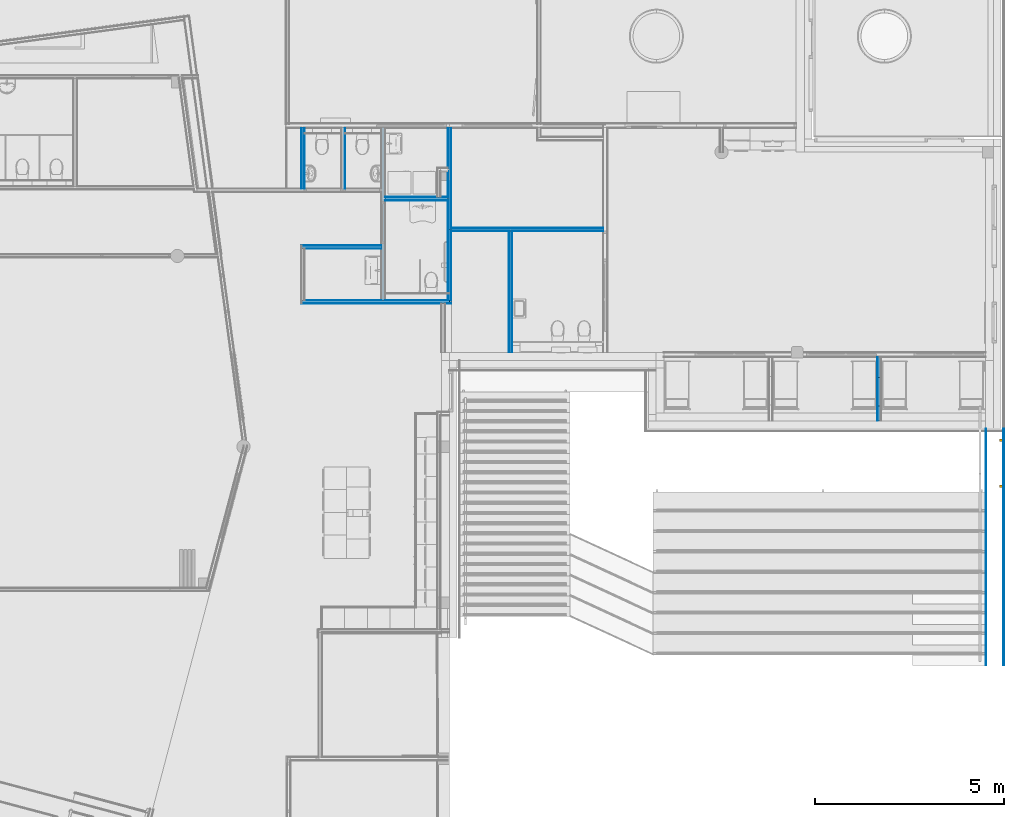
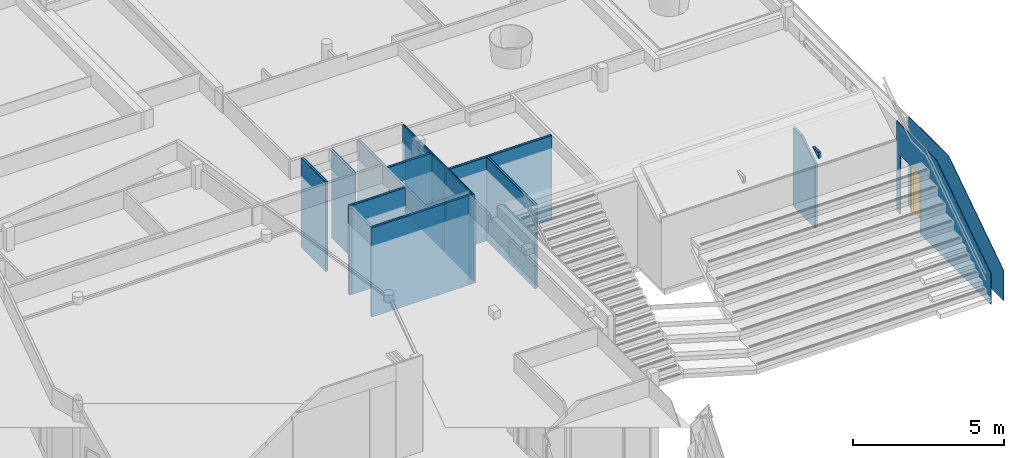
# One storey, part 71 of 167: 26 building element parts, 1 door, 5 openings, 11 elements without a shape of their own, plus 1 element that does not belong to this part.
"""IFC2X3 building model written with IfcOpenShell, lengths in millimetres."""

from ifc_helpers import new_model, entity, si_unit, converted_unit, derived_unit, money_unit, direction, frame, origin_with_axes, place, context, subcontext, project, spatial, faceted_brep, material, type_object, element, fill, aggregate, save


model = new_model("IFC2X3")

# Units and contexts
model_context = context("Model", 3, precision=0.01, world=origin_with_axes(), true_north=direction((0.0, 1.0)))
plan_context = context("Plan", 3, precision=0.01, world=origin_with_axes(), true_north=direction((0.0, 1.0)))
body_context = subcontext(model_context, "Body", "Model", "MODEL_VIEW")
ifc_project = project(units=[si_unit("LENGTHUNIT", "METRE", prefix="MILLI"), si_unit("AREAUNIT", "SQUARE_METRE"), si_unit("VOLUMEUNIT", "CUBIC_METRE"), converted_unit("PLANEANGLEUNIT", "DEGREE", entity("IfcPlaneAngleMeasure", 0.0174532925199), si_unit("PLANEANGLEUNIT", "RADIAN"), dimensions=[0, 0, 0, 0, 0, 0, 0]), si_unit("SOLIDANGLEUNIT", "STERADIAN"), money_unit("EUR"), converted_unit("TIMEUNIT", "Year", entity("IfcTimeMeasure", 31556926.0), si_unit("TIMEUNIT", "SECOND"), dimensions=[0, 0, 1, 0, 0, 0, 0]), si_unit("MASSUNIT", "GRAM", prefix="KILO"), si_unit("THERMODYNAMICTEMPERATUREUNIT", "DEGREE_CELSIUS"), si_unit("LUMINOUSINTENSITYUNIT", "LUMEN"), si_unit("ENERGYUNIT", "JOULE", prefix="MEGA"), derived_unit("THERMALCONDUCTANCEUNIT", [(si_unit("POWERUNIT", "WATT"), 1), (si_unit("LENGTHUNIT", "METRE"), -1), (si_unit("THERMODYNAMICTEMPERATUREUNIT", "KELVIN"), -1)]), derived_unit("SPECIFICHEATCAPACITYUNIT", [(si_unit("ENERGYUNIT", "JOULE"), 1), (si_unit("MASSUNIT", "GRAM", prefix="KILO"), -1), (si_unit("THERMODYNAMICTEMPERATUREUNIT", "KELVIN"), -1)]), derived_unit("MASSDENSITYUNIT", [(si_unit("MASSUNIT", "GRAM", prefix="KILO"), 1), (si_unit("VOLUMEUNIT", "CUBIC_METRE"), -1)])], contexts=[model_context, plan_context])

# Site, building, storey
site_placement = place(None, origin_with_axes())
site = spatial("IfcSite", under=ifc_project, at=site_placement, Name="Site", CompositionType="ELEMENT")
building_placement = place(site_placement, origin_with_axes())
building = spatial("IfcBuilding", under=site, at=building_placement, Name="Naam gebouw", CompositionType="ELEMENT")
storey_placement = place(building_placement, origin_with_axes())
storey = spatial("IfcBuildingStorey", under=building, at=storey_placement, Name="Begane grond", CompositionType="ELEMENT", Elevation=0.0)

# Door
door_style = type_object("IfcDoorStyle", Name="D1 24", ConstructionType="NOTDEFINED", OperationType="SINGLE_SWING_LEFT", ParameterTakesPrecedence=False, Sizeable=False)
wall_6_placement = place(storey_placement, frame((43200.0, 23020.9987916, -100.0), z_axis=(0.0, 0.0, 1.0), x_axis=(0.0, 1.0, 0.0)))
opening_2_placement = place(wall_6_placement, frame((5349.0012216, 0.0, 0.0), z_axis=(0.0, 0.0, 1.0), x_axis=(1.0, 0.0, 0.0)))
door_placement = place(opening_2_placement, frame((642.0, 0.0, 0.0), z_axis=(0.0, 0.0, 1.0), x_axis=(-1.0, 0.0, 0.0)))
door = element("IfcDoor", 1, at=door_placement, inside=storey, type_object=door_style, Name="32_Deur_He-05a", ObjectType="DOOR", OverallHeight=2367.0, OverallWidth=1284.0, context=body_context, shape_type="Brep", body=[
    faceted_brep([(1217.0, 234.0, 0.0), (1217.0, 160.0, 0.0), (1217.0, 160.0, 2300.0), (1217.0, 234.0, 2300.0), (1234.0, 234.0, 0.0), (1234.0, 274.0, 0.0), (1284.0, 274.0, 0.0), (1284.0, 160.0, 0.0), (1284.0, 160.0, 2300.0), (1234.0, 234.0, 2300.0), (1284.0, 274.0, 2300.0), (1234.0, 274.0, 2300.0)], [[[0, 1, 2, 3]], [[4, 5, 6, 7, 1, 0]], [[1, 7, 8, 2]], [[9, 3, 2, 8, 10, 11]], [[9, 4, 0, 3]], [[11, 5, 4, 9]], [[11, 10, 6, 5]], [[6, 10, 8, 7]]]),
    faceted_brep([(50.0, 234.0, 2300.0), (50.0, 274.0, 2300.0), (0.0, 274.0, 2300.0), (0.0, 160.0, 2300.0), (67.0, 160.0, 2300.0), (67.0, 234.0, 2300.0), (50.0, 234.0, 0.0), (50.0, 274.0, 0.0), (0.0, 274.0, 0.0), (0.0, 160.0, 0.0), (67.0, 160.0, 0.0), (67.0, 234.0, 0.0)], [[[0, 1, 2, 3, 4, 5]], [[0, 6, 7, 1]], [[7, 8, 2, 1]], [[2, 8, 9, 3]], [[3, 9, 10, 4]], [[5, 4, 10, 11]], [[5, 11, 6, 0]], [[6, 11, 10, 9, 8, 7]]]),
    faceted_brep([(1234.0, 274.0, 2317.0), (50.0, 274.0, 2317.0), (50.0, 274.0, 2300.0), (0.0, 274.0, 2300.0), (0.0, 274.0, 2367.0), (1284.0, 274.0, 2367.0), (1284.0, 274.0, 2300.0), (1234.0, 274.0, 2300.0), (1234.0, 234.0, 2317.0), (50.0, 234.0, 2317.0), (50.0, 234.0, 2300.0), (67.0, 234.0, 2300.0), (67.0, 160.0, 2300.0), (0.0, 160.0, 2300.0), (0.0, 160.0, 2367.0), (1284.0, 160.0, 2367.0), (1284.0, 160.0, 2300.0), (1234.0, 234.0, 2300.0), (1217.0, 160.0, 2300.0), (1217.0, 234.0, 2300.0)], [[[0, 1, 2, 3, 4, 5, 6, 7]], [[0, 8, 9, 1]], [[1, 9, 10, 2]], [[10, 11, 12, 13, 3, 2]], [[4, 3, 13, 14]], [[5, 4, 14, 15]], [[6, 5, 15, 16]], [[17, 7, 6, 16, 18, 19]], [[7, 17, 8, 0]], [[10, 9, 8, 17, 19, 11]], [[19, 18, 12, 11]], [[12, 18, 16, 15, 14, 13]]]),
    faceted_brep([(50.0, 274.0, 0.0), (1234.0, 274.0, 0.0), (1234.0, 234.0, 0.0), (50.0, 234.0, 0.0), (50.0, 274.0, 2317.0), (1234.0, 274.0, 2317.0), (1234.0, 234.0, 2317.0), (50.0, 234.0, 2317.0)], [[[0, 1, 2, 3]], [[0, 4, 5, 1]], [[1, 5, 6, 2]], [[3, 2, 6, 7]], [[4, 0, 3, 7]], [[5, 4, 7, 6]]]),
])

# Wall, building element parts
wall_type_1 = type_object("IfcWallType", Name="_TenW_22_Metalstud 100 enkel gipsvezelplaat 100", PredefinedType="NOTDEFINED")
wall_1_placement = place(storey_placement, frame((28800.0, 37300.0, -100.0), z_axis=(0.0, 0.0, 1.0), x_axis=(0.0, -1.0, 0.0)))
wall_1 = element("IfcWall", 2, at=wall_1_placement, inside=storey, type_object=wall_type_1, Name="22_Wand_Wand-x")
ifc_material_1 = material(Name="Gipsplaat watervast")
building_element_part_1_placement = place(wall_1_placement, origin_with_axes())
building_element_part_1 = element("IfcBuildingElementPart", 3, at=building_element_part_1_placement, material=ifc_material_1, Name="Gipsplaat watervast", context=body_context, shape_type="Brep", body=[
    faceted_brep([(2787.50046543, 37.5, 3405.0), (2787.50046543, 50.0, 3405.0), (2787.50046543, 50.0, 30.0), (2787.50046543, 37.5, 30.0), (4613.64713374, 50.0, 3405.0), (4613.64713374, 37.5, 3405.0), (4613.64713374, 50.0, 30.0), (4613.64713374, 37.5, 30.0)], [[[0, 1, 2, 3]], [[4, 1, 0, 5]], [[1, 4, 6, 2]], [[3, 2, 6, 7]], [[5, 0, 3, 7]], [[4, 5, 7, 6]]]),
    faceted_brep([(62.5, 37.5, 3405.0), (62.5, 50.0, 3405.0), (62.5, 50.0, 30.0), (62.5, 37.5, 30.0), (2712.50046543, 50.0, 3405.0), (2712.50046543, 37.5, 3405.0), (2712.50046543, 50.0, 30.0), (2712.50046543, 37.5, 30.0)], [[[0, 1, 2, 3]], [[4, 1, 0, 5]], [[1, 4, 6, 2]], [[3, 2, 6, 7]], [[5, 0, 3, 7]], [[4, 5, 7, 6]]]),
])
ifc_material_2 = material(Name="Isolatie - Steenwol zacht")
building_element_part_2_placement = place(wall_1_placement, origin_with_axes())
building_element_part_2 = element("IfcBuildingElementPart", 4, at=building_element_part_2_placement, material=ifc_material_2, Name="Isolatie - Steenwol zacht", context=body_context, shape_type="Brep", body=[
    faceted_brep([(50.0, 0.0, 3405.0), (50.0, 37.5, 3405.0), (50.0, 37.5, 30.0), (50.0, -37.5, 30.0), (50.0, -37.5, 3630.0), (50.0, 0.0, 3630.0), (4626.14713374, 37.5, 3405.0), (4626.14713374, 0.0, 3405.0), (4626.14713374, 37.5, 30.0), (4626.14713374, -37.5, 30.0), (4626.14713374, -37.5, 3630.0), (4626.14713374, 0.0, 3630.0)], [[[0, 1, 2, 3, 4, 5]], [[6, 1, 0, 7]], [[1, 6, 8, 2]], [[3, 2, 8, 9]], [[3, 9, 10, 4]], [[11, 5, 4, 10]], [[7, 0, 5, 11]], [[7, 11, 10, 9, 8, 6]]]),
])
building_element_part_3_placement = place(wall_1_placement, origin_with_axes())
building_element_part_3 = element("IfcBuildingElementPart", 5, at=building_element_part_3_placement, material=ifc_material_1, Name="Gipsplaat watervast", context=body_context, shape_type="Brep", body=[
    faceted_brep([(1130.0, -37.5, 30.0), (62.5, -37.5, 30.0), (62.5, -37.5, 3630.0), (1130.0, -37.5, 3630.0), (62.5, -50.0, 30.0), (1130.0, -50.0, 30.0), (62.5, -50.0, 3630.0), (1130.0, -50.0, 3630.0)], [[[0, 1, 2, 3]], [[4, 1, 0, 5]], [[1, 4, 6, 2]], [[7, 3, 2, 6]], [[5, 0, 3, 7]], [[4, 5, 7, 6]]]),
    faceted_brep([(4613.64713374, -37.5, 30.0), (1970.09999984, -37.5, 30.0), (1970.09999984, -37.5, 3630.0), (4613.64713374, -37.5, 3630.0), (1970.09999984, -50.0, 30.0), (4613.64713374, -50.0, 30.0), (1970.09999984, -50.0, 3630.0), (4613.64713374, -50.0, 3630.0)], [[[0, 1, 2, 3]], [[4, 1, 0, 5]], [[1, 4, 6, 2]], [[7, 3, 2, 6]], [[5, 0, 3, 7]], [[4, 5, 7, 6]]]),
    faceted_brep([(1895.09999984, -37.5, 30.0), (1205.0, -37.5, 30.0), (1205.0, -37.5, 3630.0), (1895.09999984, -37.5, 3630.0), (1205.0, -50.0, 30.0), (1895.09999984, -50.0, 30.0), (1205.0, -50.0, 3630.0), (1895.09999984, -50.0, 3630.0)], [[[0, 1, 2, 3]], [[4, 1, 0, 5]], [[1, 4, 6, 2]], [[7, 3, 2, 6]], [[5, 0, 3, 7]], [[4, 5, 7, 6]]]),
])
aggregate(wall_1, [building_element_part_1, building_element_part_2, building_element_part_3])

# Wall, building element part
wall_2_placement = place(storey_placement, frame((25987.5000132, 37300.0, -100.0), z_axis=(0.0, 0.0, 1.0), x_axis=(0.0, -1.0, 0.0)))
wall_2 = element("IfcWall", 6, at=wall_2_placement, inside=storey, type_object=wall_type_1, Name="22_Wand_Wand-x")
building_element_part_4_placement = place(wall_2_placement, origin_with_axes())
building_element_part_4 = element("IfcBuildingElementPart", 7, at=building_element_part_4_placement, material=ifc_material_1, Name="Gipsplaat watervast", context=body_context, shape_type="Brep", body=[
    faceted_brep([(1663.64683605, 50.0, 3630.0), (1663.64683605, 50.0, 30.0), (62.5, 50.0, 30.0), (62.5, 50.0, 3630.0), (1663.6468363, 37.5, 3630.0), (1663.6468363, 37.5, 30.0), (62.5, 37.5, 30.0), (62.5, 37.5, 3630.0)], [[[0, 1, 2, 3]], [[4, 5, 1, 0]], [[5, 6, 2, 1]], [[3, 2, 6, 7]], [[7, 4, 0, 3]], [[7, 6, 5, 4]]]),
])
aggregate(wall_2, [building_element_part_4])

# Wall, building element parts
wall_3_placement = place(storey_placement, frame((32925.2814665, 34549.9995346, -100.0), z_axis=(0.0, 0.0, 1.0), x_axis=(-1.0, 0.0, 0.0)))
wall_3 = element("IfcWall", 8, at=wall_3_placement, inside=storey, type_object=wall_type_1, Name="22_Wand_Wand-x")
building_element_part_5_placement = place(wall_3_placement, origin_with_axes())
building_element_part_5 = element("IfcBuildingElementPart", 9, at=building_element_part_5_placement, material=ifc_material_1, Name="Gipsplaat watervast", context=body_context, shape_type="Brep", body=[
    faceted_brep([(2474.78146709, 37.4999999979, 30.0), (2474.78146704, 37.4999997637, 3405.0), (62.5, 37.4999997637, 3405.0), (62.5, 37.4999999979, 30.0), (2474.78146709, 50.0, 30.0), (2474.78146703, 50.0000000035, 3405.0), (62.5, 50.0000000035, 3405.0), (62.5, 50.0, 30.0)], [[[0, 1, 2, 3]], [[4, 5, 1, 0]], [[5, 6, 2, 1]], [[3, 2, 6, 7]], [[4, 0, 3, 7]], [[7, 6, 5, 4]]]),
    faceted_brep([(4075.28146645, 37.4999997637, 3405.0), (2549.78146702, 37.4999997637, 3405.0), (2549.78146709, 37.4999999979, 30.0), (4075.28146645, 37.4999999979, 30.0), (2549.78146701, 50.0000000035, 3405.0), (4075.28146645, 50.0000000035, 3405.0), (2549.78146709, 50.0, 30.0), (4075.28146645, 50.0, 30.0)], [[[0, 1, 2, 3]], [[4, 1, 0, 5]], [[1, 4, 6, 2]], [[3, 2, 6, 7]], [[5, 0, 3, 7]], [[4, 5, 7, 6]]]),
])
building_element_part_6_placement = place(wall_3_placement, origin_with_axes())
building_element_part_6 = element("IfcBuildingElementPart", 10, at=building_element_part_6_placement, material=ifc_material_2, Name="Isolatie - Steenwol zacht", context=body_context, shape_type="Brep", body=[
    faceted_brep([(4087.78146645, -37.4999997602, 3405.0), (50.0000004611, -37.4999997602, 3405.0), (50.0000000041, -37.4999999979, 30.0), (4087.78146645, -37.4999999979, 30.0), (50.0000004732, 37.4999997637, 3405.0), (4087.78146645, 37.4999997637, 3405.0), (50.0000000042, 37.4999999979, 30.0), (4087.78146645, 37.4999999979, 30.0)], [[[0, 1, 2, 3]], [[4, 1, 0, 5]], [[1, 4, 6, 2]], [[3, 2, 6, 7]], [[5, 0, 3, 7]], [[4, 5, 7, 6]]]),
])
building_element_part_7_placement = place(wall_3_placement, origin_with_axes())
building_element_part_7 = element("IfcBuildingElementPart", 11, at=building_element_part_7_placement, material=ifc_material_1, Name="Gipsplaat watervast", context=body_context, shape_type="Brep", body=[
    faceted_brep([(4075.28146645, -50.0, 3405.0), (62.5, -50.0, 3405.0), (62.5, -50.0, 30.0), (4075.28146645, -50.0, 30.0), (62.5, -37.4999997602, 3405.0), (4075.28146645, -37.4999997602, 3405.0), (62.5, -37.4999999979, 30.0), (4075.28146645, -37.4999999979, 30.0)], [[[0, 1, 2, 3]], [[4, 1, 0, 5]], [[1, 4, 6, 2]], [[3, 2, 6, 7]], [[5, 0, 3, 7]], [[4, 5, 7, 6]]]),
])
aggregate(wall_3, [building_element_part_5, building_element_part_6, building_element_part_7])

wall_4_placement = place(storey_placement, frame((40174.9998586, 31237.4997738, -100.0), z_axis=(0.0, 0.0, 1.0), x_axis=(0.0, -1.0, 0.0)))
wall_4 = element("IfcWall", 12, at=wall_4_placement, inside=storey, type_object=wall_type_1, Name="22_Wand_Wand-x")
building_element_part_8_placement = place(wall_4_placement, origin_with_axes())
building_element_part_8 = element("IfcBuildingElementPart", 13, at=building_element_part_8_placement, material=ifc_material_2, Name="Isolatie - Steenwol zacht", context=body_context, shape_type="Brep", body=[
    faceted_brep([(1537.49976061, 37.5000000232, 30.0), (50.0, 37.5000000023, 30.0), (50.0, 37.5000002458, 3211.00000112), (602.268809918, 37.5000008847, 3211.00000112), (1537.49976061, 37.5000020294, 2626.61197501), (50.0, -37.4999999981, 30.0), (1537.49976061, -37.4999999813, 30.0), (50.0, -37.4999998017, 3211.00000112), (602.688094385, -37.4999992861, 3211.00000112), (1537.49976061, -37.4999983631, 2626.87396893)], [[[0, 1, 2, 3, 4]], [[5, 1, 0, 6]], [[1, 5, 7, 2]], [[7, 8, 3, 2]], [[9, 4, 3, 8]], [[6, 0, 4, 9]], [[5, 6, 9, 8, 7]]]),
    faceted_brep([(1751.49976061, 37.5000022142, 2964.56338462), (1357.11257121, 37.5000017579, 3211.00000112), (1751.49976061, 37.5000022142, 3211.00000112), (1357.53185568, -37.4999985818, 3211.00000112), (1751.49976061, -37.4999982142, 2964.82537854), (1751.49976061, -37.4999982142, 3211.00000112)], [[[0, 1, 2]], [[3, 1, 0, 4]], [[1, 3, 5, 2]], [[4, 0, 2, 5]], [[3, 4, 5]]]),
    faceted_brep([(1537.49976061, 37.5000022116, 2862.44765568), (1532.05271718, 37.5000022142, 2865.85129299), (1537.49976061, 37.5000022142, 2865.85129299), (1532.47200165, -37.4999982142, 2865.85129299), (1537.49976061, -37.4999982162, 2862.7096496), (1537.49976061, -37.4999982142, 2865.85129299)], [[[0, 1, 2]], [[3, 1, 0, 4]], [[1, 3, 5, 2]], [[4, 0, 2, 5]], [[3, 4, 5]]]),
])
building_element_part_9_placement = place(wall_4_placement, origin_with_axes())
building_element_part_9 = element("IfcBuildingElementPart", 14, at=building_element_part_9_placement, material=ifc_material_1, Name="Gipsplaat watervast", context=body_context, shape_type="Brep", body=[
    faceted_brep([(1537.49976061, -37.4999999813, 30.0), (62.5, -37.499999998, 30.0), (62.5, -37.4999997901, 3211.00000112), (602.688094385, -37.4999992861, 3211.00000112), (1537.49976061, -37.4999983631, 2626.87396893), (62.5, -50.0, 30.0), (1537.49976061, -50.0, 30.0), (62.5, -50.0, 3211.00000112), (602.757975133, -50.0, 3211.00000112), (1537.49976061, -50.0, 2626.91763458)], [[[0, 1, 2, 3, 4]], [[5, 1, 0, 6]], [[1, 5, 7, 2]], [[7, 8, 3, 2]], [[9, 4, 3, 8]], [[6, 0, 4, 9]], [[5, 6, 9, 8, 7]]]),
    faceted_brep([(1751.49976061, -37.4999982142, 2964.82537854), (1357.53185568, -37.4999985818, 3211.00000112), (1751.49976061, -37.4999982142, 3211.00000112), (1357.60173643, -50.0, 3211.00000112), (1751.49976061, -50.0, 2964.8690442), (1751.49976061, -50.0, 3211.00000112)], [[[0, 1, 2]], [[3, 1, 0, 4]], [[1, 3, 5, 2]], [[4, 0, 2, 5]], [[3, 4, 5]]]),
    faceted_brep([(1537.49976061, -37.4999982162, 2862.7096496), (1532.47200165, -37.4999982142, 2865.85129299), (1537.49976061, -37.4999982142, 2865.85129299), (1532.5418824, -50.0, 2865.85129299), (1537.49976061, -50.0, 2862.75331526), (1537.49976061, -50.0, 2865.85129299)], [[[0, 1, 2]], [[3, 1, 0, 4]], [[1, 3, 5, 2]], [[4, 0, 2, 5]], [[3, 4, 5]]]),
])
aggregate(wall_4, [building_element_part_8, building_element_part_9])

wall_5_placement = place(storey_placement, frame((28850.0000001, 32636.3528663, -100.0), z_axis=(0.0, 0.0, 1.0), x_axis=(-1.0, 0.0, 0.0)))
wall_5 = element("IfcWall", 15, at=wall_5_placement, inside=storey, type_object=wall_type_1, Name="22_Wand_Wand-x")
building_element_part_10_placement = place(wall_5_placement, origin_with_axes())
building_element_part_10 = element("IfcBuildingElementPart", 16, at=building_element_part_10_placement, material=ifc_material_1, Name="Gipsplaat watervast", context=body_context, shape_type="Brep", body=[
    faceted_brep([(50.0000000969, 37.5, 3405.0), (0.0, 37.5, 3405.0), (0.0, 37.5, 30.0), (176.500000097, 37.5, 30.0), (176.500000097, 37.5, 3630.0), (50.0000000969, 37.5, 3630.0), (0.0, 50.0, 3405.0), (50.0000000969, 50.0, 3405.0), (0.0, 50.0, 30.0), (176.500000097, 50.0, 30.0), (176.500000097, 50.0, 3630.0), (50.0000000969, 50.0, 3630.0)], [[[0, 1, 2, 3, 4, 5]], [[6, 1, 0, 7]], [[1, 6, 8, 2]], [[3, 2, 8, 9]], [[3, 9, 10, 4]], [[11, 5, 4, 10]], [[7, 0, 5, 11]], [[7, 11, 10, 9, 8, 6]]]),
    faceted_brep([(251.500000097, 50.0, 30.0), (251.500000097, 37.5, 30.0), (251.500000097, 37.5, 3630.0), (251.500000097, 50.0, 3630.0), (3974.99996005, 37.5, 30.0), (3974.99996005, 50.0, 30.0), (3974.99996005, 37.5, 3630.0), (3974.99996005, 50.0, 3630.0)], [[[0, 1, 2, 3]], [[4, 1, 0, 5]], [[1, 4, 6, 2]], [[6, 7, 3, 2]], [[5, 0, 3, 7]], [[4, 5, 7, 6]]]),
])
building_element_part_11_placement = place(wall_5_placement, origin_with_axes())
building_element_part_11 = element("IfcBuildingElementPart", 17, at=building_element_part_11_placement, material=ifc_material_2, Name="Isolatie - Steenwol zacht", context=body_context, shape_type="Brep", body=[
    faceted_brep([(50.0000000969, -37.5, 3405.0), (0.0, -37.5, 3405.0), (0.0, -37.5, 30.0), (3962.49996005, -37.5, 30.0), (3962.49996005, -37.5, 3630.0), (50.0000000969, -37.5, 3630.0), (0.0, 37.5, 3405.0), (50.0000000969, 37.5, 3405.0), (0.0, 37.5, 30.0), (3962.49996005, 37.5, 30.0), (3962.49996005, 37.5, 3630.0), (50.0000000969, 37.5, 3630.0)], [[[0, 1, 2, 3, 4, 5]], [[6, 1, 0, 7]], [[1, 6, 8, 2]], [[3, 2, 8, 9]], [[3, 9, 10, 4]], [[11, 5, 4, 10]], [[7, 0, 5, 11]], [[7, 11, 10, 9, 8, 6]]]),
])
building_element_part_12_placement = place(wall_5_placement, origin_with_axes())
building_element_part_12 = element("IfcBuildingElementPart", 18, at=building_element_part_12_placement, material=ifc_material_1, Name="Gipsplaat watervast", context=body_context, shape_type="Brep", body=[
    faceted_brep([(12.5000000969, -50.0, 3405.0), (0.0, -50.0, 3405.0), (0.0, -50.0, 30.0), (12.5000000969, -50.0, 30.0), (0.0, -37.5, 3405.0), (12.5000000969, -37.5, 3405.0), (0.0, -37.5, 30.0), (12.5000000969, -37.5, 30.0)], [[[0, 1, 2, 3]], [[4, 1, 0, 5]], [[1, 4, 6, 2]], [[3, 2, 6, 7]], [[5, 0, 3, 7]], [[4, 5, 7, 6]]]),
    faceted_brep([(87.5000000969, -37.5, 30.0), (87.5000000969, -50.0, 30.0), (87.5000000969, -50.0, 3630.0), (87.5000000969, -37.5, 3630.0), (1762.49998687, -50.0, 30.0), (1762.49998687, -37.5, 30.0), (1762.49998687, -50.0, 3630.0), (1762.49998687, -37.5, 3630.0)], [[[0, 1, 2, 3]], [[4, 1, 0, 5]], [[1, 4, 6, 2]], [[6, 7, 3, 2]], [[5, 0, 3, 7]], [[4, 5, 7, 6]]]),
    faceted_brep([(1837.49998687, -37.5, 30.0), (1837.49998687, -50.0, 30.0), (1837.49998687, -50.0, 3630.0), (1837.49998687, -37.5, 3630.0), (3887.49996005, -50.0, 30.0), (3887.49996005, -37.5, 30.0), (3887.49996005, -50.0, 3630.0), (3887.49996005, -37.5, 3630.0)], [[[0, 1, 2, 3]], [[4, 1, 0, 5]], [[1, 4, 6, 2]], [[6, 7, 3, 2]], [[5, 0, 3, 7]], [[4, 5, 7, 6]]]),
])
aggregate(wall_5, [building_element_part_10, building_element_part_11, building_element_part_12])

# Wall, openings
wall_type_2 = type_object("IfcWallType", Name="_TenW_21_buitenmuur ht-uittimmer-214- ht 488", PredefinedType="NOTDEFINED")
wall_6 = element("IfcWall", 19, at=wall_6_placement, inside=storey, type_object=wall_type_2, Name="21_Wand_Wand-x")
opening_1_placement = place(wall_6_placement, frame((2512.78326577, 0.0, 707.979959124), z_axis=(0.0, 0.0, 1.0), x_axis=(1.0, 0.0, 0.0)))
element("IfcOpeningElement", 20, at=opening_1_placement, cuts=wall_6, Name="31_Raam_-", context=body_context, shape_type="Brep", body=[
    faceted_brep([(3266.20828403, 488.0, 4354.47538697), (-3266.20828403, 488.0, 4354.47538697), (-3266.20828403, -488.0, 4354.47538697), (3266.20828403, -488.0, 4354.47538697), (-3266.20828403, 488.0, 0.0), (-3266.20828403, -488.0, 0.0)], [[[0, 1, 2, 3]], [[0, 4, 1]], [[1, 4, 5, 2]], [[3, 2, 5]], [[4, 0, 3, 5]]]),
])
opening_2 = element("IfcOpeningElement", 21, at=opening_2_placement, cuts=wall_6, Name="32_Deur_He-05a", context=body_context, shape_type="Brep", body=[
    faceted_brep([(642.0, -976.0, 2367.0), (642.0, -976.0, 0.0), (642.0, 488.0, 0.0), (642.0, 488.0, 2367.0), (-642.0, -976.0, 2367.0), (-642.0, -976.0, 0.0), (-642.0, 488.0, 0.0), (-642.0, 488.0, 2367.0)], [[[0, 1, 2, 3]], [[0, 4, 5, 1]], [[1, 5, 6, 2]], [[3, 2, 6, 7]], [[4, 0, 3, 7]], [[5, 4, 7, 6]]]),
])

fill(opening_2, door)

# Opening
opening_3_placement = place(wall_6_placement, frame((-23020.9987916, 43200.0, 100.0), z_axis=(0.0, 0.0, 1.0), x_axis=(0.0, -1.0, 0.0)))
element("IfcOpeningElement", 22, at=opening_3_placement, cuts=wall_6, Name="_Lege opening_Doorvoer-x", context=body_context, shape_type="Brep", body=[
    faceted_brep([(43400.0, 33541.1389397, 2799.99995741), (43400.0, 33541.1389397, 3279.99995741), (42498.0, 33541.1389397, 3279.99995741), (42498.0, 33541.1389397, 2799.99995741), (43400.0, 35701.1089397, 2799.99995741), (43400.0, 35701.1089397, 3279.99995741), (42498.0, 35701.1089397, 3279.99995741), (42498.0, 35701.1089397, 2799.99995741)], [[[0, 1, 2, 3]], [[0, 4, 5, 1]], [[1, 5, 6, 2]], [[3, 2, 6, 7]], [[4, 0, 3, 7]], [[5, 4, 7, 6]]]),
])

opening_4_placement = place(wall_6_placement, frame((-23020.9987916, 43200.0, 100.0), z_axis=(0.0, 0.0, 1.0), x_axis=(0.0, -1.0, 0.0)))
element("IfcOpeningElement", 23, at=opening_4_placement, cuts=wall_6, Name="_Lege opening_Doorvoer-x", context=body_context, shape_type="Brep", body=[
    faceted_brep([(43400.0, 31552.2989397, 2799.99995741), (43400.0, 31552.2989397, 3279.99995741), (42498.0, 31552.2989397, 3279.99995741), (42498.0, 31552.2989397, 2799.99995741), (43400.0, 32634.8189397, 2799.99995741), (43400.0, 32634.8189397, 3279.99995741), (42498.0, 32634.8189397, 3279.99995741), (42498.0, 32634.8189397, 2799.99995741)], [[[0, 1, 2, 3]], [[0, 4, 5, 1]], [[1, 5, 6, 2]], [[3, 2, 6, 7]], [[4, 0, 3, 7]], [[5, 4, 7, 6]]]),
])

# Building element part
ifc_material_3 = material(Name="_TenW_21_Hout betimmering")
building_element_part_13_placement = place(wall_6_placement, origin_with_axes())
building_element_part_13 = element("IfcBuildingElementPart", 24, at=building_element_part_13_placement, material=ifc_material_3, Name="_TenW_21_Hout betimmering", context=body_context, shape_type="Brep", body=[
    faceted_brep([(4707.0012216, 196.0, 0.0), (4707.0012216, 196.0, 2367.0), (5991.0012216, 196.0, 2367.0), (5991.0012216, 196.0, 0.0), (6265.0012216, 196.0, 0.0), (6265.0012216, 196.0, 3630.0), (3630.07711023, 196.0, 3630.0), (0.0, 196.0, 1210.20921283), (0.0, 196.0, 0.0), (4707.0012216, 214.0, 0.0), (4707.0012216, 214.0, 2367.0), (5991.0012216, 214.0, 2367.0), (5991.0012216, 214.0, 0.0), (6265.0012216, 214.0, 0.0), (6265.0012216, 214.0, 3630.0), (3630.07711023, 214.0, 3630.0), (0.0, 214.0, 1210.20921283), (0.0, 214.0, 0.0)], [[[0, 1, 2, 3, 4, 5, 6, 7, 8]], [[1, 0, 9, 10]], [[2, 1, 10, 11]], [[3, 2, 11, 12]], [[3, 12, 13, 4]], [[14, 5, 4, 13]], [[6, 5, 14, 15]], [[6, 15, 16, 7]], [[16, 17, 8, 7]], [[9, 0, 8, 17]], [[10, 9, 17, 16, 15, 14, 13, 12, 11]]]),
])

building_element_part_14_placement = place(wall_6_placement, origin_with_axes())
building_element_part_14 = element("IfcBuildingElementPart", 25, at=building_element_part_14_placement, material=ifc_material_3, Name="_TenW_21_Hout betimmering", context=body_context, shape_type="Brep", body=[
    faceted_brep([(4707.0012216, -274.0, 0.0), (4707.0012216, -274.0, 2367.0), (5991.0012216, -274.0, 2367.0), (5991.0012216, -274.0, 0.0), (6265.0012216, -274.0, 0.0), (6265.0012216, -274.0, 3630.0), (3630.07711023, -274.0, 3630.0), (0.0, -274.0, 1210.20921283), (0.0, -274.0, 0.0), (4707.0012216, -256.0, 0.0), (4707.0012216, -256.0, 2367.0), (5991.0012216, -256.0, 2367.0), (5991.0012216, -256.0, 0.0), (6265.0012216, -256.0, 0.0), (6265.0012216, -256.0, 3630.0), (3630.07711023, -256.0, 3630.0), (0.0, -256.0, 1210.20921283), (0.0, -256.0, 0.0)], [[[0, 1, 2, 3, 4, 5, 6, 7, 8]], [[1, 0, 9, 10]], [[2, 1, 10, 11]], [[3, 2, 11, 12]], [[3, 12, 13, 4]], [[5, 4, 13, 14]], [[6, 5, 14, 15]], [[6, 15, 16, 7]], [[16, 17, 8, 7]], [[9, 0, 8, 17]], [[10, 9, 17, 16, 15, 14, 13, 12, 11]]]),
])

aggregate(wall_6, [building_element_part_13, building_element_part_14])

# Wall, building element parts
wall_7_placement = place(storey_placement, frame((27050.0000132, 34086.3528617, -100.0), z_axis=(0.0, 0.0, 1.0), x_axis=(-1.0, 0.0, 0.0)))
wall_7 = element("IfcWall", 26, at=wall_7_placement, inside=storey, type_object=wall_type_1, Name="22_Wand_Wand-x")
building_element_part_15_placement = place(wall_7_placement, origin_with_axes())
building_element_part_15 = element("IfcBuildingElementPart", 27, at=building_element_part_15_placement, material=ifc_material_1, Name="Gipsplaat watervast", context=body_context, shape_type="Brep", body=[
    faceted_brep([(50.0, 50.0, 30.0), (50.0, 37.5, 30.0), (50.0, 37.5, 3630.0), (50.0, 50.0, 3630.0), (2087.49997318, 37.5, 30.0), (2087.49997318, 50.0, 30.0), (2087.49997318, 37.5, 3630.0), (2087.49997318, 50.0, 3630.0)], [[[0, 1, 2, 3]], [[4, 1, 0, 5]], [[1, 4, 6, 2]], [[6, 7, 3, 2]], [[5, 0, 3, 7]], [[4, 5, 7, 6]]]),
])
building_element_part_16_placement = place(wall_7_placement, origin_with_axes())
building_element_part_16 = element("IfcBuildingElementPart", 28, at=building_element_part_16_placement, material=ifc_material_2, Name="Isolatie - Steenwol zacht", context=body_context, shape_type="Brep", body=[
    faceted_brep([(37.5, 37.5, 30.0), (37.5, -37.5, 30.0), (37.5, -37.5, 3630.0), (37.5, 37.5, 3630.0), (2162.49997318, -37.5, 30.0), (2162.49997318, 37.5, 30.0), (2162.49997318, -37.5, 3630.0), (2162.49997318, 37.5, 3630.0)], [[[0, 1, 2, 3]], [[4, 1, 0, 5]], [[1, 4, 6, 2]], [[6, 7, 3, 2]], [[5, 0, 3, 7]], [[4, 5, 7, 6]]]),
])
building_element_part_17_placement = place(wall_7_placement, origin_with_axes())
building_element_part_17 = element("IfcBuildingElementPart", 29, at=building_element_part_17_placement, material=ifc_material_1, Name="Gipsplaat watervast", context=body_context, shape_type="Brep", body=[
    faceted_brep([(50.0, -37.5, 30.0), (50.0, -50.0, 30.0), (50.0, -50.0, 3630.0), (50.0, -37.5, 3630.0), (2174.99997318, -50.0, 30.0), (2174.99997318, -37.5, 30.0), (2174.99997318, -50.0, 3630.0), (2174.99997318, -37.5, 3630.0)], [[[0, 1, 2, 3]], [[4, 1, 0, 5]], [[1, 4, 6, 2]], [[6, 7, 3, 2]], [[5, 0, 3, 7]], [[4, 5, 7, 6]]]),
])
aggregate(wall_7, [building_element_part_15, building_element_part_16, building_element_part_17])

wall_8_placement = place(storey_placement, frame((24925.0000167, 37300.0, -100.0), z_axis=(0.0, 0.0, 1.0), x_axis=(0.0, -1.0, 0.0)))
wall_8 = element("IfcWall", 30, at=wall_8_placement, inside=storey, type_object=wall_type_1, Name="22_Wand_Wand-x")
building_element_part_18_placement = place(wall_8_placement, origin_with_axes())
building_element_part_18 = element("IfcBuildingElementPart", 31, at=building_element_part_18_placement, material=ifc_material_1, Name="Gipsplaat watervast", context=body_context, shape_type="Brep", body=[
    faceted_brep([(1663.64685758, 50.0, 3630.0), (1663.64685758, 50.0, 30.0), (62.5, 50.0, 30.0), (62.5, 50.0, 3630.0), (1663.64685783, 37.5, 3630.0), (1663.64685783, 37.5, 30.0), (62.5, 37.5, 30.0), (62.5, 37.5, 3630.0)], [[[0, 1, 2, 3]], [[4, 5, 1, 0]], [[5, 6, 2, 1]], [[3, 2, 6, 7]], [[7, 4, 0, 3]], [[7, 6, 5, 4]]]),
])
building_element_part_19_placement = place(wall_8_placement, origin_with_axes())
building_element_part_19 = element("IfcBuildingElementPart", 32, at=building_element_part_19_placement, material=ifc_material_2, Name="Isolatie - Steenwol zacht", context=body_context, shape_type="Brep", body=[
    faceted_brep([(1663.64681553, 37.5, 100.0), (1676.14685783, 37.5, 100.0), (1676.14685783, 37.5, 30.0), (50.0, 37.5, 30.0), (50.0, 37.5, 3630.0), (1676.14685783, 37.5, 3630.0), (1676.14685783, 37.5, 2900.0), (1663.64681553, 37.5, 2900.0), (1663.64681553, 28.4999964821, 100.0), (1676.14685801, 28.4999964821, 100.0), (1676.14685801, 28.4999964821, 2900.0), (1676.14685935, -37.5, 3630.0), (1676.14685935, -37.5, 30.0), (50.0, -37.5, 30.0), (50.0, -37.5, 3630.0), (1663.64681553, 28.4999964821, 2900.0)], [[[0, 1, 2, 3, 4, 5, 6, 7]], [[1, 0, 8, 9]], [[10, 6, 5, 11, 12, 2, 1, 9]], [[12, 13, 3, 2]], [[4, 3, 13, 14]], [[14, 11, 5, 4]], [[7, 6, 10, 15]], [[0, 7, 15, 8]], [[10, 9, 8, 15]], [[14, 13, 12, 11]]]),
])
building_element_part_20_placement = place(wall_8_placement, origin_with_axes())
building_element_part_20 = element("IfcBuildingElementPart", 33, at=building_element_part_20_placement, material=ifc_material_1, Name="Gipsplaat watervast", context=body_context, shape_type="Brep", body=[
    faceted_brep([(1663.64685935, -37.5, 30.0), (62.5, -37.5, 30.0), (62.5, -37.5, 3630.0), (1663.64685935, -37.5, 3630.0), (62.5, -50.0, 30.0), (1663.6468596, -50.0, 30.0), (62.5, -50.0, 3630.0), (1663.6468596, -50.0, 3630.0)], [[[0, 1, 2, 3]], [[4, 1, 0, 5]], [[1, 4, 6, 2]], [[7, 3, 2, 6]], [[5, 0, 3, 7]], [[4, 5, 7, 6]]]),
])
aggregate(wall_8, [building_element_part_18, building_element_part_19, building_element_part_20])

# Wall, opening, building element part
wall_9_placement = place(storey_placement, frame((27050.0000132, 37300.0, -100.0), z_axis=(0.0, 0.0, 1.0), x_axis=(0.0, -1.0, 0.0)))
wall_9 = element("IfcWall", 34, at=wall_9_placement, inside=storey, type_object=wall_type_1, Name="22_Wand_Wand-x")
opening_5_placement = place(wall_9_placement, frame((2566.6471383, 0.0, 100.0), z_axis=(0.0, 0.0, 1.0), x_axis=(1.0, 0.0, 0.0)))
element("IfcOpeningElement", 35, at=opening_5_placement, cuts=wall_9, Name="32_Deur_Hi-06", context=body_context, shape_type="Brep", body=[
    faceted_brep([(567.0, -200.0, 2800.0), (567.0, -200.0, 0.0), (567.0, 100.0, 0.0), (567.0, 100.0, 2800.0), (-567.0, -200.0, 2800.0), (-567.0, -200.0, 0.0), (-567.0, 100.0, 0.0), (-567.0, 100.0, 2800.0)], [[[0, 1, 2, 3]], [[0, 4, 5, 1]], [[1, 5, 6, 2]], [[3, 2, 6, 7]], [[4, 0, 3, 7]], [[5, 4, 7, 6]]]),
])
building_element_part_21_placement = place(wall_9_placement, origin_with_axes())
building_element_part_21 = element("IfcBuildingElementPart", 36, at=building_element_part_21_placement, material=ifc_material_2, Name="Isolatie - Steenwol zacht", context=body_context, shape_type="Brep", body=[
    faceted_brep([(3133.6471383, 37.5, 100.0), (3133.6471383, 37.5, 2900.0), (1999.6471383, 37.5, 2900.0), (1999.6471383, 37.5, 100.0), (1999.6471383, 37.5, 30.0), (50.0, 37.5, 30.0), (50.0, 37.5, 3630.0), (4626.14713374, 37.5, 3630.0), (4626.14713374, 37.5, 30.0), (3133.6471383, 37.5, 30.0), (3133.6471383, -37.5, 100.0), (3133.6471383, -37.5, 2900.0), (1999.6471383, -37.5, 2900.0), (1999.6471383, -37.5, 100.0), (1999.6471383, -37.5, 30.0), (50.0, -37.5, 30.0), (50.0, -37.5, 3630.0), (4626.14713374, -37.5, 3630.0), (4626.14713374, -37.5, 30.0), (3133.6471383, -37.5, 30.0)], [[[0, 1, 2, 3, 4, 5, 6, 7, 8, 9]], [[1, 0, 10, 11]], [[2, 1, 11, 12]], [[3, 2, 12, 13]], [[3, 13, 14, 4]], [[14, 15, 5, 4]], [[15, 16, 6, 5]], [[7, 6, 16, 17]], [[8, 7, 17, 18]], [[9, 8, 18, 19]], [[10, 0, 9, 19]], [[11, 10, 19, 18, 17, 16, 15, 14, 13, 12]]]),
])
aggregate(wall_9, [building_element_part_21])

# Wall, building element parts
wall_10_placement = place(storey_placement, frame((30412.9999994, 31085.9997738, -100.0), z_axis=(0.0, 0.0, 1.0), x_axis=(0.0, 1.0, 0.0)))
wall_10 = element("IfcWall", 37, at=wall_10_placement, inside=storey, type_object=wall_type_1, Name="22_Wand_Wand-x")
building_element_part_22_placement = place(wall_10_placement, origin_with_axes())
building_element_part_22 = element("IfcBuildingElementPart", 38, at=building_element_part_22_placement, material=ifc_material_1, Name="Gipsplaat watervast", context=body_context, shape_type="Brep", body=[
    faceted_brep([(3413.99976075, 50.0000000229, 3405.0), (3413.99976075, 37.4999999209, 3405.0), (3413.99976075, 37.4999999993, 30.0), (3413.99976075, 50.0000000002, 30.0), (214.0, 37.4999984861, 3405.0), (214.0, 50.000000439, 3405.0), (214.0, 37.4999999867, 30.0), (214.0, 50.0000000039, 30.0)], [[[0, 1, 2, 3]], [[4, 1, 0, 5]], [[1, 4, 6, 2]], [[3, 2, 6, 7]], [[5, 0, 3, 7]], [[4, 5, 7, 6]]]),
])
building_element_part_23_placement = place(wall_10_placement, origin_with_axes())
building_element_part_23 = element("IfcBuildingElementPart", 39, at=building_element_part_23_placement, material=ifc_material_2, Name="Isolatie - Steenwol zacht", context=body_context, shape_type="Brep", body=[
    faceted_brep([(3426.49976075, 37.4999999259, 3405.0), (3426.49976075, -37.5000000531, 3405.0), (3426.49976075, -37.5000000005, 30.0), (3426.49976075, 37.4999999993, 30.0), (214.0, -37.500001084, 3405.0), (214.0, 37.4999984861, 3405.0), (214.0, -37.5000000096, 30.0), (214.0, 37.4999999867, 30.0)], [[[0, 1, 2, 3]], [[4, 1, 0, 5]], [[1, 4, 6, 2]], [[3, 2, 6, 7]], [[5, 0, 3, 7]], [[4, 5, 7, 6]]]),
])
building_element_part_24_placement = place(wall_10_placement, origin_with_axes())
building_element_part_24 = element("IfcBuildingElementPart", 40, at=building_element_part_24_placement, material=ifc_material_1, Name="Gipsplaat watervast", context=body_context, shape_type="Brep", body=[
    faceted_brep([(3413.99976075, -37.5000000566, 3405.0), (3413.99976075, -50.0, 3405.0), (3413.99976075, -50.0, 30.0), (3413.99976075, -37.5000000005, 30.0), (214.0, -50.0, 3405.0), (214.0, -37.500001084, 3405.0), (214.0, -50.0, 30.0), (214.0, -37.5000000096, 30.0)], [[[0, 1, 2, 3]], [[4, 1, 0, 5]], [[1, 4, 6, 2]], [[3, 2, 6, 7]], [[5, 0, 3, 7]], [[4, 5, 7, 6]]]),
])
aggregate(wall_10, [building_element_part_22, building_element_part_23, building_element_part_24])

wall_11_placement = place(storey_placement, frame((28799.9999986, 35367.4000002, -100.0), z_axis=(0.0, 0.0, 1.0), x_axis=(-1.0, 0.0, 0.0)))
wall_11 = element("IfcWall", 41, at=wall_11_placement, inside=storey, type_object=wall_type_1, Name="22_Wand_Wand-x")
building_element_part_25_placement = place(wall_11_placement, origin_with_axes())
building_element_part_25 = element("IfcBuildingElementPart", 42, at=building_element_part_25_placement, material=ifc_material_1, Name="Gipsplaat watervast", context=body_context, shape_type="Brep", body=[
    faceted_brep([(49.9999985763, 50.0, 30.0), (49.9999985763, 37.5, 30.0), (49.9999985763, 37.5, 3630.0), (49.9999985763, 50.0, 3630.0), (1699.99998535, 37.5, 30.0), (1699.99998535, 50.0, 30.0), (1699.99998535, 37.5, 3630.0), (1699.99998535, 50.0, 3630.0)], [[[0, 1, 2, 3]], [[4, 1, 0, 5]], [[1, 4, 6, 2]], [[6, 7, 3, 2]], [[5, 0, 3, 7]], [[4, 5, 7, 6]]]),
])
building_element_part_26_placement = place(wall_11_placement, origin_with_axes())
building_element_part_26 = element("IfcBuildingElementPart", 43, at=building_element_part_26_placement, material=ifc_material_2, Name="Isolatie - Steenwol zacht", context=body_context, shape_type="Brep", body=[
    faceted_brep([(37.4999985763, 37.5, 30.0), (37.4999985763, -37.5, 30.0), (37.4999985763, -37.5, 3630.0), (37.4999985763, 37.5, 3630.0), (1712.49998535, -37.5, 30.0), (1712.49998535, 37.5, 30.0), (1712.49998535, -37.5, 3630.0), (1712.49998535, 37.5, 3630.0)], [[[0, 1, 2, 3]], [[4, 1, 0, 5]], [[1, 4, 6, 2]], [[6, 7, 3, 2]], [[5, 0, 3, 7]], [[4, 5, 7, 6]]]),
])
building_element_part_27_placement = place(wall_11_placement, origin_with_axes())
building_element_part_27 = element("IfcBuildingElementPart", 44, at=building_element_part_27_placement, material=ifc_material_1, Name="Gipsplaat watervast", context=body_context, shape_type="Brep", body=[
    faceted_brep([(49.9999985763, -37.5, 30.0), (49.9999985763, -50.0, 30.0), (49.9999985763, -50.0, 3630.0), (49.9999985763, -37.5, 3630.0), (237.499998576, -50.0, 30.0), (237.499998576, -37.5, 30.0), (237.499998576, -50.0, 3630.0), (237.499998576, -37.5, 3630.0)], [[[0, 1, 2, 3]], [[4, 1, 0, 5]], [[1, 4, 6, 2]], [[6, 7, 3, 2]], [[5, 0, 3, 7]], [[4, 5, 7, 6]]]),
    faceted_brep([(312.499998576, -37.5, 30.0), (312.499998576, -50.0, 30.0), (312.499998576, -50.0, 3630.0), (312.499998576, -37.5, 3630.0), (1699.99998535, -50.0, 30.0), (1699.99998535, -37.5, 30.0), (1699.99998535, -50.0, 3630.0), (1699.99998535, -37.5, 3630.0)], [[[0, 1, 2, 3]], [[4, 1, 0, 5]], [[1, 4, 6, 2]], [[6, 7, 3, 2]], [[5, 0, 3, 7]], [[4, 5, 7, 6]]]),
])
aggregate(wall_11, [building_element_part_25, building_element_part_26, building_element_part_27])

save(model, "model.ifc")
